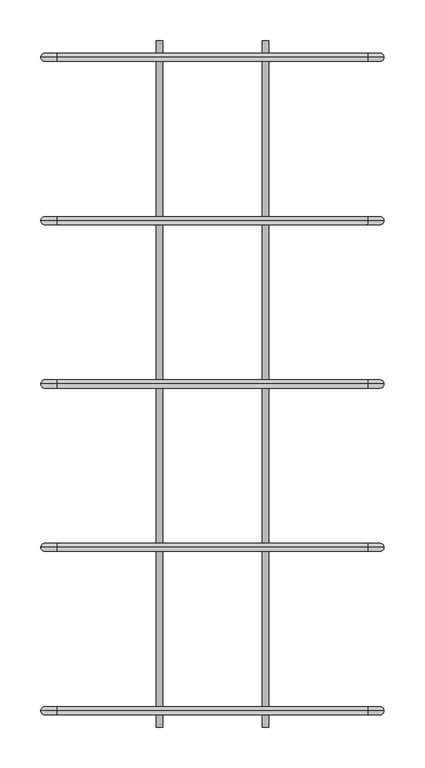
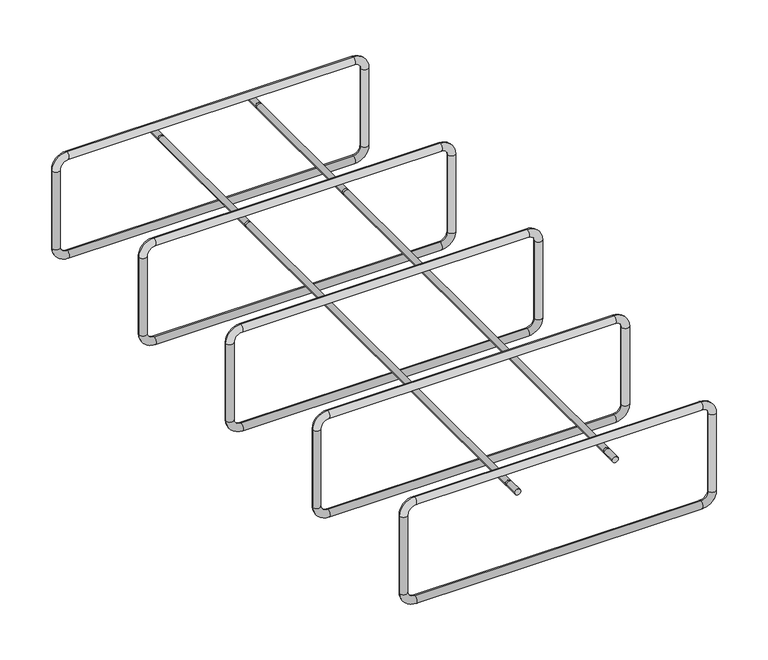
"""IFC4 building model written with IfcOpenShell, lengths in millimetres: fastener geometry, ACINOXplus_Typenreihe_Ux-Ox : OD+ S4."""

from ifc_helpers import new_model, si_unit, point, frame, frame_2d, origin, place, context, project, spatial, circle_curve, ellipse_curve, trimmed, segment, composite_curve, outline, extrude, source, transform, mapped, element, save
from ifc_brep_helpers import cylinder_surface, revolved_surface, advanced_brep


def fastener_25e3de61(model_context):
    return source(origin(), model_context, "Body", "SolidModel", [
        extrude(outline(composite_curve([segment(trimmed(circle_curve(frame_2d((-50.5, -65.0)), 4.0), [point((-50.5, -69.0))], [point((-50.5, -61.0))], False, "CARTESIAN"), True, "CONTINUOUS"), segment(trimmed(circle_curve(frame_2d((-50.5, -65.0)), 4.0), [point((-50.5, -61.0))], [point((-50.5, -69.0))], False, "CARTESIAN"), True, "CONTINUOUS")], self_intersect=False)), frame((0.0, 401.5, 0.0), z_axis=(0.0, 1.0, 0.0), x_axis=(0.0, 0.0, 1.0)), (0.0, 0.0, 1.0), 18.5),
        extrude(outline(composite_curve([segment(trimmed(circle_curve(frame_2d((-50.5, -65.0)), 4.0), [point((-50.5, -61.0))], [point((-50.5, -69.0))], False, "CARTESIAN"), True, "CONTINUOUS"), segment(trimmed(circle_curve(frame_2d((-50.5, -65.0)), 4.0), [point((-50.5, -69.0))], [point((-50.5, -61.0))], False, "CARTESIAN"), True, "CONTINUOUS")], self_intersect=False)), frame((0.0, -420.0, 0.0), z_axis=(0.0, 1.0, 0.0), x_axis=(0.0, 0.0, 1.0)), (0.0, 0.0, 1.0), 18.5),
        extrude(outline(composite_curve([segment(trimmed(circle_curve(frame_2d((-50.5, -65.0)), 4.0), [point((-50.5, -69.0))], [point((-50.5, -61.0))], False, "CARTESIAN"), True, "CONTINUOUS"), segment(trimmed(circle_curve(frame_2d((-50.5, -65.0)), 4.0), [point((-50.5, -61.0))], [point((-50.5, -69.0))], False, "CARTESIAN"), True, "CONTINUOUS")], self_intersect=False)), frame((0.0, -398.5, 0.0), z_axis=(0.0, 1.0, 0.0), x_axis=(0.0, 0.0, 1.0)), (0.0, 0.0, 1.0), 597.0),
        extrude(outline(composite_curve([segment(trimmed(circle_curve(frame_2d((-50.5, -65.0)), 4.0), [point((-50.5, -69.0))], [point((-50.5, -61.0))], False, "CARTESIAN"), True, "CONTINUOUS"), segment(trimmed(circle_curve(frame_2d((-50.5, -65.0)), 4.0), [point((-50.5, -61.0))], [point((-50.5, -69.0))], False, "CARTESIAN"), True, "CONTINUOUS")], self_intersect=False)), frame((0.0, 201.5, 0.0), z_axis=(0.0, 1.0, 0.0), x_axis=(0.0, 0.0, 1.0)), (0.0, 0.0, 1.0), 197.0),
        extrude(outline(composite_curve([segment(trimmed(circle_curve(frame_2d((-50.5, 65.0)), 4.0), [point((-50.5, 61.0))], [point((-50.5, 69.0))], False, "CARTESIAN"), True, "CONTINUOUS"), segment(trimmed(circle_curve(frame_2d((-50.5, 65.0)), 4.0), [point((-50.5, 69.0))], [point((-50.5, 61.0))], False, "CARTESIAN"), True, "CONTINUOUS")], self_intersect=False)), frame((0.0, 401.5, 0.0), z_axis=(0.0, 1.0, 0.0), x_axis=(0.0, 0.0, 1.0)), (0.0, 0.0, 1.0), 18.5),
        extrude(outline(composite_curve([segment(trimmed(circle_curve(frame_2d((-50.5, 65.0)), 4.0), [point((-50.5, 69.0))], [point((-50.5, 61.0))], False, "CARTESIAN"), True, "CONTINUOUS"), segment(trimmed(circle_curve(frame_2d((-50.5, 65.0)), 4.0), [point((-50.5, 61.0))], [point((-50.5, 69.0))], False, "CARTESIAN"), True, "CONTINUOUS")], self_intersect=False)), frame((0.0, -420.0, 0.0), z_axis=(0.0, 1.0, 0.0), x_axis=(0.0, 0.0, 1.0)), (0.0, 0.0, 1.0), 18.5),
        extrude(outline(composite_curve([segment(trimmed(circle_curve(frame_2d((-50.5, 65.0)), 4.0), [point((-50.5, 61.0))], [point((-50.5, 69.0))], False, "CARTESIAN"), True, "CONTINUOUS"), segment(trimmed(circle_curve(frame_2d((-50.5, 65.0)), 4.0), [point((-50.5, 69.0))], [point((-50.5, 61.0))], False, "CARTESIAN"), True, "CONTINUOUS")], self_intersect=False)), frame((0.0, -398.5, 0.0), z_axis=(0.0, 1.0, 0.0), x_axis=(0.0, 0.0, 1.0)), (0.0, 0.0, 1.0), 597.0),
        extrude(outline(composite_curve([segment(trimmed(circle_curve(frame_2d((-50.5, 65.0)), 4.0), [point((-50.5, 61.0))], [point((-50.5, 69.0))], False, "CARTESIAN"), True, "CONTINUOUS"), segment(trimmed(circle_curve(frame_2d((-50.5, 65.0)), 4.0), [point((-50.5, 69.0))], [point((-50.5, 61.0))], False, "CARTESIAN"), True, "CONTINUOUS")], self_intersect=False)), frame((0.0, 201.5, 0.0), z_axis=(0.0, 1.0, 0.0), x_axis=(0.0, 0.0, 1.0)), (0.0, 0.0, 1.0), 197.0),
        advanced_brep(
        [(190.0, 200.0, -35.5), (190.0, 200.0, -25.5), (-190.0, 200.0, -25.5), (-190.0, 200.0, -35.5), (-200.0, 200.0, -45.5), (-210.0, 200.0, -45.5), (-210.0, 200.0, -154.5), (-200.0, 200.0, -154.5), (-190.0, 200.0, -164.5), (-190.0, 200.0, -174.5), (190.0, 200.0, -174.5), (190.0, 200.0, -164.5), (200.0, 200.0, -154.5), (210.0, 200.0, -154.5), (210.0, 200.0, -45.5), (200.0, 200.0, -45.5)],
        [
            (0, 1, circle_curve(frame((190.0, 200.0, -30.5), z_axis=(-1.0, 0.0, 0.0), x_axis=(0.0, 0.0, -1.0)), 5.0)),
            (1, 2),
            (2, 3, circle_curve(frame((-190.0, 200.0, -30.5), z_axis=(1.0, 0.0, 0.0), x_axis=(0.0, 0.0, -1.0)), 5.0)),
            (3, 0),
            (1, 0, circle_curve(frame((190.0, 200.0, -30.5), z_axis=(-1.0, 0.0, 0.0), x_axis=(0.0, 0.0, -1.0)), 5.0)),
            (3, 2, circle_curve(frame((-190.0, 200.0, -30.5), z_axis=(1.0, 0.0, 0.0), x_axis=(0.0, 0.0, -1.0)), 5.0)),
            (4, 3, circle_curve(frame((-190.0, 200.0, -45.5), z_axis=(0.0, 1.0, 0.0), x_axis=(0.0, 0.0, 1.0)), 10.0)),
            (2, 5, circle_curve(frame((-190.0, 200.0, -45.5), z_axis=(0.0, -1.0, 0.0), x_axis=(0.0, 0.0, 1.0)), 20.0)),
            (5, 4, circle_curve(frame((-205.0, 200.0, -45.5), z_axis=(0.0, 0.0, 1.0), x_axis=(1.0, 0.0, 0.0)), 5.0)),
            (4, 5, circle_curve(frame((-205.0, 200.0, -45.5), z_axis=(0.0, 0.0, 1.0), x_axis=(1.0, 0.0, 0.0)), 5.0)),
            (5, 6),
            (6, 7, circle_curve(frame((-205.0, 200.0, -154.5), z_axis=(0.0, 0.0, 1.0), x_axis=(1.0, 0.0, 0.0)), 5.0)),
            (7, 4),
            (7, 6, circle_curve(frame((-205.0, 200.0, -154.5), z_axis=(0.0, 0.0, 1.0), x_axis=(1.0, 0.0, 0.0)), 5.0)),
            (8, 7, circle_curve(frame((-190.0, 200.0, -154.5), z_axis=(0.0, 1.0, 0.0), x_axis=(-1.0, 0.0, 0.0)), 10.0)),
            (6, 9, circle_curve(frame((-190.0, 200.0, -154.5), z_axis=(0.0, -1.0, 0.0), x_axis=(-1.0, 0.0, 0.0)), 20.0)),
            (9, 8, circle_curve(frame((-190.0, 200.0, -169.5), z_axis=(-1.0, 0.0, 0.0), x_axis=(0.0, 0.0, 1.0)), 5.0)),
            (8, 9, circle_curve(frame((-190.0, 200.0, -169.5), z_axis=(-1.0, 0.0, 0.0), x_axis=(0.0, 0.0, 1.0)), 5.0)),
            (9, 10),
            (10, 11, circle_curve(frame((190.0, 200.0, -169.5), z_axis=(-1.0, 0.0, 0.0), x_axis=(0.0, 0.0, 1.0)), 5.0)),
            (11, 8),
            (11, 10, circle_curve(frame((190.0, 200.0, -169.5), z_axis=(-1.0, 0.0, 0.0), x_axis=(0.0, 0.0, 1.0)), 5.0)),
            (12, 11, circle_curve(frame((190.0, 200.0, -154.5), z_axis=(0.0, 1.0, 0.0), x_axis=(0.0, 0.0, -1.0)), 10.0)),
            (10, 13, circle_curve(frame((190.0, 200.0, -154.5), z_axis=(0.0, -1.0, 0.0), x_axis=(0.0, 0.0, -1.0)), 20.0)),
            (13, 12, circle_curve(frame((205.0, 200.0, -154.5), z_axis=(0.0, 0.0, -1.0), x_axis=(-1.0, 0.0, 0.0)), 5.0)),
            (12, 13, circle_curve(frame((205.0, 200.0, -154.5), z_axis=(0.0, 0.0, -1.0), x_axis=(-1.0, 0.0, 0.0)), 5.0)),
            (13, 14),
            (14, 15, circle_curve(frame((205.0, 200.0, -45.5), z_axis=(0.0, 0.0, -1.0), x_axis=(-1.0, 0.0, 0.0)), 5.0)),
            (15, 12),
            (15, 14, circle_curve(frame((205.0, 200.0, -45.5), z_axis=(0.0, 0.0, -1.0), x_axis=(-1.0, 0.0, 0.0)), 5.0)),
            (0, 15, circle_curve(frame((190.0, 200.0, -45.5), z_axis=(0.0, 1.0, 0.0), x_axis=(1.0, 0.0, 0.0)), 10.0)),
            (14, 1, circle_curve(frame((190.0, 200.0, -45.5), z_axis=(0.0, -1.0, 0.0), x_axis=(1.0, 0.0, 0.0)), 20.0)),
        ],
        [
            cylinder_surface(frame((190.0, 200.0, -30.5), z_axis=(1.0, 0.0, 0.0), x_axis=(0.0, 0.0, -1.0)), 5.0),
            revolved_surface(trimmed(ellipse_curve(frame((-190.0, 200.0, -30.5), z_axis=(1.0, 0.0, 0.0), x_axis=(0.0, 0.0, -1.0)), 5.0, 5.0), [point((-190.0, 200.0, -25.5))], [point((-190.0, 200.0, -35.5))], True, "CARTESIAN"), (-190.0, 200.0, -45.5), (0.0, -1.0, 0.0)),
            revolved_surface(trimmed(ellipse_curve(frame((-190.0, 200.0, -30.5), z_axis=(1.0, 0.0, 0.0), x_axis=(0.0, 0.0, -1.0)), 5.0, 5.0), [point((-190.0, 200.0, -35.5))], [point((-190.0, 200.0, -25.5))], True, "CARTESIAN"), (-190.0, 200.0, -45.5), (0.0, -1.0, 0.0)),
            cylinder_surface(frame((-205.0, 200.0, -45.5), z_axis=(0.0, 0.0, 1.0), x_axis=(1.0, 0.0, 0.0)), 5.0),
            revolved_surface(trimmed(ellipse_curve(frame((-205.0, 200.0, -154.5), z_axis=(0.0, 0.0, 1.0), x_axis=(1.0, 0.0, 0.0)), 5.0, 5.0), [point((-210.0, 200.0, -154.5))], [point((-200.0, 200.0, -154.5))], True, "CARTESIAN"), (-190.0, 200.0, -154.5), (0.0, -1.0, 0.0)),
            revolved_surface(trimmed(ellipse_curve(frame((-205.0, 200.0, -154.5), z_axis=(0.0, 0.0, 1.0), x_axis=(1.0, 0.0, 0.0)), 5.0, 5.0), [point((-200.0, 200.0, -154.5))], [point((-210.0, 200.0, -154.5))], True, "CARTESIAN"), (-190.0, 200.0, -154.5), (0.0, -1.0, 0.0)),
            cylinder_surface(frame((-190.0, 200.0, -169.5), z_axis=(-1.0, 0.0, 0.0), x_axis=(0.0, 0.0, 1.0)), 5.0),
            revolved_surface(trimmed(ellipse_curve(frame((190.0, 200.0, -169.5), z_axis=(-1.0, 0.0, 0.0), x_axis=(0.0, 0.0, 1.0)), 5.0, 5.0), [point((190.0, 200.0, -174.5))], [point((190.0, 200.0, -164.5))], True, "CARTESIAN"), (190.0, 200.0, -154.5), (0.0, -1.0, 0.0)),
            revolved_surface(trimmed(ellipse_curve(frame((190.0, 200.0, -169.5), z_axis=(-1.0, 0.0, 0.0), x_axis=(0.0, 0.0, 1.0)), 5.0, 5.0), [point((190.0, 200.0, -164.5))], [point((190.0, 200.0, -174.5))], True, "CARTESIAN"), (190.0, 200.0, -154.5), (0.0, -1.0, 0.0)),
            cylinder_surface(frame((205.0, 200.0, -154.5), z_axis=(0.0, 0.0, -1.0), x_axis=(-1.0, 0.0, 0.0)), 5.0),
            revolved_surface(trimmed(ellipse_curve(frame((205.0, 200.0, -45.5), z_axis=(0.0, 0.0, -1.0), x_axis=(-1.0, 0.0, 0.0)), 5.0, 5.0), [point((210.0, 200.0, -45.5))], [point((200.0, 200.0, -45.5))], True, "CARTESIAN"), (190.0, 200.0, -45.5), (0.0, -1.0, 0.0)),
            revolved_surface(trimmed(ellipse_curve(frame((205.0, 200.0, -45.5), z_axis=(0.0, 0.0, -1.0), x_axis=(-1.0, 0.0, 0.0)), 5.0, 5.0), [point((200.0, 200.0, -45.5))], [point((210.0, 200.0, -45.5))], True, "CARTESIAN"), (190.0, 200.0, -45.5), (0.0, -1.0, 0.0)),
        ],
        [
            (0, [[1, 2, 3, 4]]),
            (0, [[5, -4, 6, -2]]),
            (1, [[7, -3, 8, 9]]),
            (2, [[-8, -6, -7, 10]]),
            (3, [[-9, 11, 12, 13]]),
            (3, [[-10, -13, 14, -11]]),
            (4, [[15, -12, 16, 17]]),
            (5, [[-16, -14, -15, 18]]),
            (6, [[-17, 19, 20, 21]]),
            (6, [[-18, -21, 22, -19]]),
            (7, [[23, -20, 24, 25]]),
            (8, [[-24, -22, -23, 26]]),
            (9, [[-25, 27, 28, 29]]),
            (9, [[-26, -29, 30, -27]]),
            (10, [[31, -28, 32, -1]]),
            (11, [[-32, -30, -31, -5]]),
        ],
    ),
        advanced_brep(
        [(190.0, 0.0, -35.5), (190.0, 0.0, -25.5), (-190.0, 0.0, -25.5), (-190.0, 0.0, -35.5), (-200.0, 0.0, -45.5), (-210.0, 0.0, -45.5), (-210.0, 0.0, -154.5), (-200.0, 0.0, -154.5), (-190.0, 0.0, -164.5), (-190.0, 0.0, -174.5), (190.0, 0.0, -174.5), (190.0, 0.0, -164.5), (200.0, 0.0, -154.5), (210.0, 0.0, -154.5), (210.0, 0.0, -45.5), (200.0, 0.0, -45.5)],
        [
            (0, 1, circle_curve(frame((190.0, 0.0, -30.5), z_axis=(-1.0, 0.0, 0.0), x_axis=(0.0, 0.0, -1.0)), 5.0)),
            (1, 2),
            (2, 3, circle_curve(frame((-190.0, 0.0, -30.5), z_axis=(1.0, 0.0, 0.0), x_axis=(0.0, 0.0, -1.0)), 5.0)),
            (3, 0),
            (1, 0, circle_curve(frame((190.0, 0.0, -30.5), z_axis=(-1.0, 0.0, 0.0), x_axis=(0.0, 0.0, -1.0)), 5.0)),
            (3, 2, circle_curve(frame((-190.0, 0.0, -30.5), z_axis=(1.0, 0.0, 0.0), x_axis=(0.0, 0.0, -1.0)), 5.0)),
            (4, 3, circle_curve(frame((-190.0, 0.0, -45.5), z_axis=(0.0, 1.0, 0.0), x_axis=(0.0, 0.0, 1.0)), 10.0)),
            (2, 5, circle_curve(frame((-190.0, 0.0, -45.5), z_axis=(0.0, -1.0, 0.0), x_axis=(0.0, 0.0, 1.0)), 20.0)),
            (5, 4, circle_curve(frame((-205.0, 0.0, -45.5), z_axis=(0.0, 0.0, 1.0), x_axis=(1.0, 0.0, 0.0)), 5.0)),
            (4, 5, circle_curve(frame((-205.0, 0.0, -45.5), z_axis=(0.0, 0.0, 1.0), x_axis=(1.0, 0.0, 0.0)), 5.0)),
            (5, 6),
            (6, 7, circle_curve(frame((-205.0, 0.0, -154.5), z_axis=(0.0, 0.0, 1.0), x_axis=(1.0, 0.0, 0.0)), 5.0)),
            (7, 4),
            (7, 6, circle_curve(frame((-205.0, 0.0, -154.5), z_axis=(0.0, 0.0, 1.0), x_axis=(1.0, 0.0, 0.0)), 5.0)),
            (8, 7, circle_curve(frame((-190.0, 0.0, -154.5), z_axis=(0.0, 1.0, 0.0), x_axis=(-1.0, 0.0, 0.0)), 10.0)),
            (6, 9, circle_curve(frame((-190.0, 0.0, -154.5), z_axis=(0.0, -1.0, 0.0), x_axis=(-1.0, 0.0, 0.0)), 20.0)),
            (9, 8, circle_curve(frame((-190.0, 0.0, -169.5), z_axis=(-1.0, 0.0, 0.0), x_axis=(0.0, 0.0, 1.0)), 5.0)),
            (8, 9, circle_curve(frame((-190.0, 0.0, -169.5), z_axis=(-1.0, 0.0, 0.0), x_axis=(0.0, 0.0, 1.0)), 5.0)),
            (9, 10),
            (10, 11, circle_curve(frame((190.0, 0.0, -169.5), z_axis=(-1.0, 0.0, 0.0), x_axis=(0.0, 0.0, 1.0)), 5.0)),
            (11, 8),
            (11, 10, circle_curve(frame((190.0, 0.0, -169.5), z_axis=(-1.0, 0.0, 0.0), x_axis=(0.0, 0.0, 1.0)), 5.0)),
            (12, 11, circle_curve(frame((190.0, 0.0, -154.5), z_axis=(0.0, 1.0, 0.0), x_axis=(0.0, 0.0, -1.0)), 10.0)),
            (10, 13, circle_curve(frame((190.0, 0.0, -154.5), z_axis=(0.0, -1.0, 0.0), x_axis=(0.0, 0.0, -1.0)), 20.0)),
            (13, 12, circle_curve(frame((205.0, 0.0, -154.5), z_axis=(0.0, 0.0, -1.0), x_axis=(-1.0, 0.0, 0.0)), 5.0)),
            (12, 13, circle_curve(frame((205.0, 0.0, -154.5), z_axis=(0.0, 0.0, -1.0), x_axis=(-1.0, 0.0, 0.0)), 5.0)),
            (13, 14),
            (14, 15, circle_curve(frame((205.0, 0.0, -45.5), z_axis=(0.0, 0.0, -1.0), x_axis=(-1.0, 0.0, 0.0)), 5.0)),
            (15, 12),
            (15, 14, circle_curve(frame((205.0, 0.0, -45.5), z_axis=(0.0, 0.0, -1.0), x_axis=(-1.0, 0.0, 0.0)), 5.0)),
            (0, 15, circle_curve(frame((190.0, 0.0, -45.5), z_axis=(0.0, 1.0, 0.0), x_axis=(1.0, 0.0, 0.0)), 10.0)),
            (14, 1, circle_curve(frame((190.0, 0.0, -45.5), z_axis=(0.0, -1.0, 0.0), x_axis=(1.0, 0.0, 0.0)), 20.0)),
        ],
        [
            cylinder_surface(frame((190.0, 0.0, -30.5), z_axis=(1.0, 0.0, 0.0), x_axis=(0.0, 0.0, -1.0)), 5.0),
            revolved_surface(trimmed(ellipse_curve(frame((-190.0, 0.0, -30.5), z_axis=(1.0, 0.0, 0.0), x_axis=(0.0, 0.0, -1.0)), 5.0, 5.0), [point((-190.0, 0.0, -25.5))], [point((-190.0, 0.0, -35.5))], True, "CARTESIAN"), (-190.0, 0.0, -45.5), (0.0, -1.0, 0.0)),
            revolved_surface(trimmed(ellipse_curve(frame((-190.0, 0.0, -30.5), z_axis=(1.0, 0.0, 0.0), x_axis=(0.0, 0.0, -1.0)), 5.0, 5.0), [point((-190.0, 0.0, -35.5))], [point((-190.0, 0.0, -25.5))], True, "CARTESIAN"), (-190.0, 0.0, -45.5), (0.0, -1.0, 0.0)),
            cylinder_surface(frame((-205.0, 0.0, -45.5), z_axis=(0.0, 0.0, 1.0), x_axis=(1.0, 0.0, 0.0)), 5.0),
            revolved_surface(trimmed(ellipse_curve(frame((-205.0, 0.0, -154.5), z_axis=(0.0, 0.0, 1.0), x_axis=(1.0, 0.0, 0.0)), 5.0, 5.0), [point((-210.0, 0.0, -154.5))], [point((-200.0, 0.0, -154.5))], True, "CARTESIAN"), (-190.0, 0.0, -154.5), (0.0, -1.0, 0.0)),
            revolved_surface(trimmed(ellipse_curve(frame((-205.0, 0.0, -154.5), z_axis=(0.0, 0.0, 1.0), x_axis=(1.0, 0.0, 0.0)), 5.0, 5.0), [point((-200.0, 0.0, -154.5))], [point((-210.0, 0.0, -154.5))], True, "CARTESIAN"), (-190.0, 0.0, -154.5), (0.0, -1.0, 0.0)),
            cylinder_surface(frame((-190.0, 0.0, -169.5), z_axis=(-1.0, 0.0, 0.0), x_axis=(0.0, 0.0, 1.0)), 5.0),
            revolved_surface(trimmed(ellipse_curve(frame((190.0, 0.0, -169.5), z_axis=(-1.0, 0.0, 0.0), x_axis=(0.0, 0.0, 1.0)), 5.0, 5.0), [point((190.0, 0.0, -174.5))], [point((190.0, 0.0, -164.5))], True, "CARTESIAN"), (190.0, 0.0, -154.5), (0.0, -1.0, 0.0)),
            revolved_surface(trimmed(ellipse_curve(frame((190.0, 0.0, -169.5), z_axis=(-1.0, 0.0, 0.0), x_axis=(0.0, 0.0, 1.0)), 5.0, 5.0), [point((190.0, 0.0, -164.5))], [point((190.0, 0.0, -174.5))], True, "CARTESIAN"), (190.0, 0.0, -154.5), (0.0, -1.0, 0.0)),
            cylinder_surface(frame((205.0, 0.0, -154.5), z_axis=(0.0, 0.0, -1.0), x_axis=(-1.0, 0.0, 0.0)), 5.0),
            revolved_surface(trimmed(ellipse_curve(frame((205.0, 0.0, -45.5), z_axis=(0.0, 0.0, -1.0), x_axis=(-1.0, 0.0, 0.0)), 5.0, 5.0), [point((210.0, 0.0, -45.5))], [point((200.0, 0.0, -45.5))], True, "CARTESIAN"), (190.0, 0.0, -45.5), (0.0, -1.0, 0.0)),
            revolved_surface(trimmed(ellipse_curve(frame((205.0, 0.0, -45.5), z_axis=(0.0, 0.0, -1.0), x_axis=(-1.0, 0.0, 0.0)), 5.0, 5.0), [point((200.0, 0.0, -45.5))], [point((210.0, 0.0, -45.5))], True, "CARTESIAN"), (190.0, 0.0, -45.5), (0.0, -1.0, 0.0)),
        ],
        [
            (0, [[1, 2, 3, 4]]),
            (0, [[5, -4, 6, -2]]),
            (1, [[7, -3, 8, 9]]),
            (2, [[-8, -6, -7, 10]]),
            (3, [[-9, 11, 12, 13]]),
            (3, [[-10, -13, 14, -11]]),
            (4, [[15, -12, 16, 17]]),
            (5, [[-16, -14, -15, 18]]),
            (6, [[-17, 19, 20, 21]]),
            (6, [[-18, -21, 22, -19]]),
            (7, [[23, -20, 24, 25]]),
            (8, [[-24, -22, -23, 26]]),
            (9, [[-25, 27, 28, 29]]),
            (9, [[-26, -29, 30, -27]]),
            (10, [[31, -28, 32, -1]]),
            (11, [[-32, -30, -31, -5]]),
        ],
    ),
        advanced_brep(
        [(190.0, -200.0, -35.5), (190.0, -200.0, -25.5), (-190.0, -200.0, -25.5), (-190.0, -200.0, -35.5), (-200.0, -200.0, -45.5), (-210.0, -200.0, -45.5), (-210.0, -200.0, -154.5), (-200.0, -200.0, -154.5), (-190.0, -200.0, -164.5), (-190.0, -200.0, -174.5), (190.0, -200.0, -174.5), (190.0, -200.0, -164.5), (200.0, -200.0, -154.5), (210.0, -200.0, -154.5), (210.0, -200.0, -45.5), (200.0, -200.0, -45.5)],
        [
            (0, 1, circle_curve(frame((190.0, -200.0, -30.5), z_axis=(-1.0, 0.0, 0.0), x_axis=(0.0, 0.0, -1.0)), 5.0)),
            (1, 2),
            (2, 3, circle_curve(frame((-190.0, -200.0, -30.5), z_axis=(1.0, 0.0, 0.0), x_axis=(0.0, 0.0, -1.0)), 5.0)),
            (3, 0),
            (1, 0, circle_curve(frame((190.0, -200.0, -30.5), z_axis=(-1.0, 0.0, 0.0), x_axis=(0.0, 0.0, -1.0)), 5.0)),
            (3, 2, circle_curve(frame((-190.0, -200.0, -30.5), z_axis=(1.0, 0.0, 0.0), x_axis=(0.0, 0.0, -1.0)), 5.0)),
            (4, 3, circle_curve(frame((-190.0, -200.0, -45.5), z_axis=(0.0, 1.0, 0.0), x_axis=(0.0, 0.0, 1.0)), 10.0)),
            (2, 5, circle_curve(frame((-190.0, -200.0, -45.5), z_axis=(0.0, -1.0, 0.0), x_axis=(0.0, 0.0, 1.0)), 20.0)),
            (5, 4, circle_curve(frame((-205.0, -200.0, -45.5), z_axis=(0.0, 0.0, 1.0), x_axis=(1.0, 0.0, 0.0)), 5.0)),
            (4, 5, circle_curve(frame((-205.0, -200.0, -45.5), z_axis=(0.0, 0.0, 1.0), x_axis=(1.0, 0.0, 0.0)), 5.0)),
            (5, 6),
            (6, 7, circle_curve(frame((-205.0, -200.0, -154.5), z_axis=(0.0, 0.0, 1.0), x_axis=(1.0, 0.0, 0.0)), 5.0)),
            (7, 4),
            (7, 6, circle_curve(frame((-205.0, -200.0, -154.5), z_axis=(0.0, 0.0, 1.0), x_axis=(1.0, 0.0, 0.0)), 5.0)),
            (8, 7, circle_curve(frame((-190.0, -200.0, -154.5), z_axis=(0.0, 1.0, 0.0), x_axis=(-1.0, 0.0, 0.0)), 10.0)),
            (6, 9, circle_curve(frame((-190.0, -200.0, -154.5), z_axis=(0.0, -1.0, 0.0), x_axis=(-1.0, 0.0, 0.0)), 20.0)),
            (9, 8, circle_curve(frame((-190.0, -200.0, -169.5), z_axis=(-1.0, 0.0, 0.0), x_axis=(0.0, 0.0, 1.0)), 5.0)),
            (8, 9, circle_curve(frame((-190.0, -200.0, -169.5), z_axis=(-1.0, 0.0, 0.0), x_axis=(0.0, 0.0, 1.0)), 5.0)),
            (9, 10),
            (10, 11, circle_curve(frame((190.0, -200.0, -169.5), z_axis=(-1.0, 0.0, 0.0), x_axis=(0.0, 0.0, 1.0)), 5.0)),
            (11, 8),
            (11, 10, circle_curve(frame((190.0, -200.0, -169.5), z_axis=(-1.0, 0.0, 0.0), x_axis=(0.0, 0.0, 1.0)), 5.0)),
            (12, 11, circle_curve(frame((190.0, -200.0, -154.5), z_axis=(0.0, 1.0, 0.0), x_axis=(0.0, 0.0, -1.0)), 10.0)),
            (10, 13, circle_curve(frame((190.0, -200.0, -154.5), z_axis=(0.0, -1.0, 0.0), x_axis=(0.0, 0.0, -1.0)), 20.0)),
            (13, 12, circle_curve(frame((205.0, -200.0, -154.5), z_axis=(0.0, 0.0, -1.0), x_axis=(-1.0, 0.0, 0.0)), 5.0)),
            (12, 13, circle_curve(frame((205.0, -200.0, -154.5), z_axis=(0.0, 0.0, -1.0), x_axis=(-1.0, 0.0, 0.0)), 5.0)),
            (13, 14),
            (14, 15, circle_curve(frame((205.0, -200.0, -45.5), z_axis=(0.0, 0.0, -1.0), x_axis=(-1.0, 0.0, 0.0)), 5.0)),
            (15, 12),
            (15, 14, circle_curve(frame((205.0, -200.0, -45.5), z_axis=(0.0, 0.0, -1.0), x_axis=(-1.0, 0.0, 0.0)), 5.0)),
            (0, 15, circle_curve(frame((190.0, -200.0, -45.5), z_axis=(0.0, 1.0, 0.0), x_axis=(1.0, 0.0, 0.0)), 10.0)),
            (14, 1, circle_curve(frame((190.0, -200.0, -45.5), z_axis=(0.0, -1.0, 0.0), x_axis=(1.0, 0.0, 0.0)), 20.0)),
        ],
        [
            cylinder_surface(frame((190.0, -200.0, -30.5), z_axis=(1.0, 0.0, 0.0), x_axis=(0.0, 0.0, -1.0)), 5.0),
            revolved_surface(trimmed(ellipse_curve(frame((-190.0, -200.0, -30.5), z_axis=(1.0, 0.0, 0.0), x_axis=(0.0, 0.0, -1.0)), 5.0, 5.0), [point((-190.0, -200.0, -25.5))], [point((-190.0, -200.0, -35.5))], True, "CARTESIAN"), (-190.0, -200.0, -45.5), (0.0, -1.0, 0.0)),
            revolved_surface(trimmed(ellipse_curve(frame((-190.0, -200.0, -30.5), z_axis=(1.0, 0.0, 0.0), x_axis=(0.0, 0.0, -1.0)), 5.0, 5.0), [point((-190.0, -200.0, -35.5))], [point((-190.0, -200.0, -25.5))], True, "CARTESIAN"), (-190.0, -200.0, -45.5), (0.0, -1.0, 0.0)),
            cylinder_surface(frame((-205.0, -200.0, -45.5), z_axis=(0.0, 0.0, 1.0), x_axis=(1.0, 0.0, 0.0)), 5.0),
            revolved_surface(trimmed(ellipse_curve(frame((-205.0, -200.0, -154.5), z_axis=(0.0, 0.0, 1.0), x_axis=(1.0, 0.0, 0.0)), 5.0, 5.0), [point((-210.0, -200.0, -154.5))], [point((-200.0, -200.0, -154.5))], True, "CARTESIAN"), (-190.0, -200.0, -154.5), (0.0, -1.0, 0.0)),
            revolved_surface(trimmed(ellipse_curve(frame((-205.0, -200.0, -154.5), z_axis=(0.0, 0.0, 1.0), x_axis=(1.0, 0.0, 0.0)), 5.0, 5.0), [point((-200.0, -200.0, -154.5))], [point((-210.0, -200.0, -154.5))], True, "CARTESIAN"), (-190.0, -200.0, -154.5), (0.0, -1.0, 0.0)),
            cylinder_surface(frame((-190.0, -200.0, -169.5), z_axis=(-1.0, 0.0, 0.0), x_axis=(0.0, 0.0, 1.0)), 5.0),
            revolved_surface(trimmed(ellipse_curve(frame((190.0, -200.0, -169.5), z_axis=(-1.0, 0.0, 0.0), x_axis=(0.0, 0.0, 1.0)), 5.0, 5.0), [point((190.0, -200.0, -174.5))], [point((190.0, -200.0, -164.5))], True, "CARTESIAN"), (190.0, -200.0, -154.5), (0.0, -1.0, 0.0)),
            revolved_surface(trimmed(ellipse_curve(frame((190.0, -200.0, -169.5), z_axis=(-1.0, 0.0, 0.0), x_axis=(0.0, 0.0, 1.0)), 5.0, 5.0), [point((190.0, -200.0, -164.5))], [point((190.0, -200.0, -174.5))], True, "CARTESIAN"), (190.0, -200.0, -154.5), (0.0, -1.0, 0.0)),
            cylinder_surface(frame((205.0, -200.0, -154.5), z_axis=(0.0, 0.0, -1.0), x_axis=(-1.0, 0.0, 0.0)), 5.0),
            revolved_surface(trimmed(ellipse_curve(frame((205.0, -200.0, -45.5), z_axis=(0.0, 0.0, -1.0), x_axis=(-1.0, 0.0, 0.0)), 5.0, 5.0), [point((210.0, -200.0, -45.5))], [point((200.0, -200.0, -45.5))], True, "CARTESIAN"), (190.0, -200.0, -45.5), (0.0, -1.0, 0.0)),
            revolved_surface(trimmed(ellipse_curve(frame((205.0, -200.0, -45.5), z_axis=(0.0, 0.0, -1.0), x_axis=(-1.0, 0.0, 0.0)), 5.0, 5.0), [point((200.0, -200.0, -45.5))], [point((210.0, -200.0, -45.5))], True, "CARTESIAN"), (190.0, -200.0, -45.5), (0.0, -1.0, 0.0)),
        ],
        [
            (0, [[1, 2, 3, 4]]),
            (0, [[5, -4, 6, -2]]),
            (1, [[7, -3, 8, 9]]),
            (2, [[-8, -6, -7, 10]]),
            (3, [[-9, 11, 12, 13]]),
            (3, [[-10, -13, 14, -11]]),
            (4, [[15, -12, 16, 17]]),
            (5, [[-16, -14, -15, 18]]),
            (6, [[-17, 19, 20, 21]]),
            (6, [[-18, -21, 22, -19]]),
            (7, [[23, -20, 24, 25]]),
            (8, [[-24, -22, -23, 26]]),
            (9, [[-25, 27, 28, 29]]),
            (9, [[-26, -29, 30, -27]]),
            (10, [[31, -28, 32, -1]]),
            (11, [[-32, -30, -31, -5]]),
        ],
    ),
        advanced_brep(
        [(190.0, 400.0, -35.5), (190.0, 400.0, -25.5), (-190.0, 400.0, -25.5), (-190.0, 400.0, -35.5), (-200.0, 400.0, -45.5), (-210.0, 400.0, -45.5), (-210.0, 400.0, -154.5), (-200.0, 400.0, -154.5), (-190.0, 400.0, -164.5), (-190.0, 400.0, -174.5), (190.0, 400.0, -174.5), (190.0, 400.0, -164.5), (200.0, 400.0, -154.5), (210.0, 400.0, -154.5), (210.0, 400.0, -45.5), (200.0, 400.0, -45.5)],
        [
            (0, 1, circle_curve(frame((190.0, 400.0, -30.5), z_axis=(-1.0, 0.0, 0.0), x_axis=(0.0, 0.0, -1.0)), 5.0)),
            (1, 2),
            (2, 3, circle_curve(frame((-190.0, 400.0, -30.5), z_axis=(1.0, 0.0, 0.0), x_axis=(0.0, 0.0, -1.0)), 5.0)),
            (3, 0),
            (1, 0, circle_curve(frame((190.0, 400.0, -30.5), z_axis=(-1.0, 0.0, 0.0), x_axis=(0.0, 0.0, -1.0)), 5.0)),
            (3, 2, circle_curve(frame((-190.0, 400.0, -30.5), z_axis=(1.0, 0.0, 0.0), x_axis=(0.0, 0.0, -1.0)), 5.0)),
            (4, 3, circle_curve(frame((-190.0, 400.0, -45.5), z_axis=(0.0, 1.0, 0.0), x_axis=(0.0, 0.0, 1.0)), 10.0)),
            (2, 5, circle_curve(frame((-190.0, 400.0, -45.5), z_axis=(0.0, -1.0, 0.0), x_axis=(0.0, 0.0, 1.0)), 20.0)),
            (5, 4, circle_curve(frame((-205.0, 400.0, -45.5), z_axis=(0.0, 0.0, 1.0), x_axis=(1.0, 0.0, 0.0)), 5.0)),
            (4, 5, circle_curve(frame((-205.0, 400.0, -45.5), z_axis=(0.0, 0.0, 1.0), x_axis=(1.0, 0.0, 0.0)), 5.0)),
            (5, 6),
            (6, 7, circle_curve(frame((-205.0, 400.0, -154.5), z_axis=(0.0, 0.0, 1.0), x_axis=(1.0, 0.0, 0.0)), 5.0)),
            (7, 4),
            (7, 6, circle_curve(frame((-205.0, 400.0, -154.5), z_axis=(0.0, 0.0, 1.0), x_axis=(1.0, 0.0, 0.0)), 5.0)),
            (8, 7, circle_curve(frame((-190.0, 400.0, -154.5), z_axis=(0.0, 1.0, 0.0), x_axis=(-1.0, 0.0, 0.0)), 10.0)),
            (6, 9, circle_curve(frame((-190.0, 400.0, -154.5), z_axis=(0.0, -1.0, 0.0), x_axis=(-1.0, 0.0, 0.0)), 20.0)),
            (9, 8, circle_curve(frame((-190.0, 400.0, -169.5), z_axis=(-1.0, 0.0, 0.0), x_axis=(0.0, 0.0, 1.0)), 5.0)),
            (8, 9, circle_curve(frame((-190.0, 400.0, -169.5), z_axis=(-1.0, 0.0, 0.0), x_axis=(0.0, 0.0, 1.0)), 5.0)),
            (9, 10),
            (10, 11, circle_curve(frame((190.0, 400.0, -169.5), z_axis=(-1.0, 0.0, 0.0), x_axis=(0.0, 0.0, 1.0)), 5.0)),
            (11, 8),
            (11, 10, circle_curve(frame((190.0, 400.0, -169.5), z_axis=(-1.0, 0.0, 0.0), x_axis=(0.0, 0.0, 1.0)), 5.0)),
            (12, 11, circle_curve(frame((190.0, 400.0, -154.5), z_axis=(0.0, 1.0, 0.0), x_axis=(0.0, 0.0, -1.0)), 10.0)),
            (10, 13, circle_curve(frame((190.0, 400.0, -154.5), z_axis=(0.0, -1.0, 0.0), x_axis=(0.0, 0.0, -1.0)), 20.0)),
            (13, 12, circle_curve(frame((205.0, 400.0, -154.5), z_axis=(0.0, 0.0, -1.0), x_axis=(-1.0, 0.0, 0.0)), 5.0)),
            (12, 13, circle_curve(frame((205.0, 400.0, -154.5), z_axis=(0.0, 0.0, -1.0), x_axis=(-1.0, 0.0, 0.0)), 5.0)),
            (13, 14),
            (14, 15, circle_curve(frame((205.0, 400.0, -45.5), z_axis=(0.0, 0.0, -1.0), x_axis=(-1.0, 0.0, 0.0)), 5.0)),
            (15, 12),
            (15, 14, circle_curve(frame((205.0, 400.0, -45.5), z_axis=(0.0, 0.0, -1.0), x_axis=(-1.0, 0.0, 0.0)), 5.0)),
            (0, 15, circle_curve(frame((190.0, 400.0, -45.5), z_axis=(0.0, 1.0, 0.0), x_axis=(1.0, 0.0, 0.0)), 10.0)),
            (14, 1, circle_curve(frame((190.0, 400.0, -45.5), z_axis=(0.0, -1.0, 0.0), x_axis=(1.0, 0.0, 0.0)), 20.0)),
        ],
        [
            cylinder_surface(frame((190.0, 400.0, -30.5), z_axis=(1.0, 0.0, 0.0), x_axis=(0.0, 0.0, -1.0)), 5.0),
            revolved_surface(trimmed(ellipse_curve(frame((-190.0, 400.0, -30.5), z_axis=(1.0, 0.0, 0.0), x_axis=(0.0, 0.0, -1.0)), 5.0, 5.0), [point((-190.0, 400.0, -25.5))], [point((-190.0, 400.0, -35.5))], True, "CARTESIAN"), (-190.0, 400.0, -45.5), (0.0, -1.0, 0.0)),
            revolved_surface(trimmed(ellipse_curve(frame((-190.0, 400.0, -30.5), z_axis=(1.0, 0.0, 0.0), x_axis=(0.0, 0.0, -1.0)), 5.0, 5.0), [point((-190.0, 400.0, -35.5))], [point((-190.0, 400.0, -25.5))], True, "CARTESIAN"), (-190.0, 400.0, -45.5), (0.0, -1.0, 0.0)),
            cylinder_surface(frame((-205.0, 400.0, -45.5), z_axis=(0.0, 0.0, 1.0), x_axis=(1.0, 0.0, 0.0)), 5.0),
            revolved_surface(trimmed(ellipse_curve(frame((-205.0, 400.0, -154.5), z_axis=(0.0, 0.0, 1.0), x_axis=(1.0, 0.0, 0.0)), 5.0, 5.0), [point((-210.0, 400.0, -154.5))], [point((-200.0, 400.0, -154.5))], True, "CARTESIAN"), (-190.0, 400.0, -154.5), (0.0, -1.0, 0.0)),
            revolved_surface(trimmed(ellipse_curve(frame((-205.0, 400.0, -154.5), z_axis=(0.0, 0.0, 1.0), x_axis=(1.0, 0.0, 0.0)), 5.0, 5.0), [point((-200.0, 400.0, -154.5))], [point((-210.0, 400.0, -154.5))], True, "CARTESIAN"), (-190.0, 400.0, -154.5), (0.0, -1.0, 0.0)),
            cylinder_surface(frame((-190.0, 400.0, -169.5), z_axis=(-1.0, 0.0, 0.0), x_axis=(0.0, 0.0, 1.0)), 5.0),
            revolved_surface(trimmed(ellipse_curve(frame((190.0, 400.0, -169.5), z_axis=(-1.0, 0.0, 0.0), x_axis=(0.0, 0.0, 1.0)), 5.0, 5.0), [point((190.0, 400.0, -174.5))], [point((190.0, 400.0, -164.5))], True, "CARTESIAN"), (190.0, 400.0, -154.5), (0.0, -1.0, 0.0)),
            revolved_surface(trimmed(ellipse_curve(frame((190.0, 400.0, -169.5), z_axis=(-1.0, 0.0, 0.0), x_axis=(0.0, 0.0, 1.0)), 5.0, 5.0), [point((190.0, 400.0, -164.5))], [point((190.0, 400.0, -174.5))], True, "CARTESIAN"), (190.0, 400.0, -154.5), (0.0, -1.0, 0.0)),
            cylinder_surface(frame((205.0, 400.0, -154.5), z_axis=(0.0, 0.0, -1.0), x_axis=(-1.0, 0.0, 0.0)), 5.0),
            revolved_surface(trimmed(ellipse_curve(frame((205.0, 400.0, -45.5), z_axis=(0.0, 0.0, -1.0), x_axis=(-1.0, 0.0, 0.0)), 5.0, 5.0), [point((210.0, 400.0, -45.5))], [point((200.0, 400.0, -45.5))], True, "CARTESIAN"), (190.0, 400.0, -45.5), (0.0, -1.0, 0.0)),
            revolved_surface(trimmed(ellipse_curve(frame((205.0, 400.0, -45.5), z_axis=(0.0, 0.0, -1.0), x_axis=(-1.0, 0.0, 0.0)), 5.0, 5.0), [point((200.0, 400.0, -45.5))], [point((210.0, 400.0, -45.5))], True, "CARTESIAN"), (190.0, 400.0, -45.5), (0.0, -1.0, 0.0)),
        ],
        [
            (0, [[1, 2, 3, 4]]),
            (0, [[5, -4, 6, -2]]),
            (1, [[7, -3, 8, 9]]),
            (2, [[-8, -6, -7, 10]]),
            (3, [[-9, 11, 12, 13]]),
            (3, [[-10, -13, 14, -11]]),
            (4, [[15, -12, 16, 17]]),
            (5, [[-16, -14, -15, 18]]),
            (6, [[-17, 19, 20, 21]]),
            (6, [[-18, -21, 22, -19]]),
            (7, [[23, -20, 24, 25]]),
            (8, [[-24, -22, -23, 26]]),
            (9, [[-25, 27, 28, 29]]),
            (9, [[-26, -29, 30, -27]]),
            (10, [[31, -28, 32, -1]]),
            (11, [[-32, -30, -31, -5]]),
        ],
    ),
        advanced_brep(
        [(190.0, -400.0, -35.5), (190.0, -400.0, -25.5), (-190.0, -400.0, -25.5), (-190.0, -400.0, -35.5), (-200.0, -400.0, -45.5), (-210.0, -400.0, -45.5), (-210.0, -400.0, -154.5), (-200.0, -400.0, -154.5), (-190.0, -400.0, -164.5), (-190.0, -400.0, -174.5), (190.0, -400.0, -174.5), (190.0, -400.0, -164.5), (200.0, -400.0, -154.5), (210.0, -400.0, -154.5), (210.0, -400.0, -45.5), (200.0, -400.0, -45.5)],
        [
            (0, 1, circle_curve(frame((190.0, -400.0, -30.5), z_axis=(-1.0, 0.0, 0.0), x_axis=(0.0, 0.0, -1.0)), 5.0)),
            (1, 2),
            (2, 3, circle_curve(frame((-190.0, -400.0, -30.5), z_axis=(1.0, 0.0, 0.0), x_axis=(0.0, 0.0, -1.0)), 5.0)),
            (3, 0),
            (1, 0, circle_curve(frame((190.0, -400.0, -30.5), z_axis=(-1.0, 0.0, 0.0), x_axis=(0.0, 0.0, -1.0)), 5.0)),
            (3, 2, circle_curve(frame((-190.0, -400.0, -30.5), z_axis=(1.0, 0.0, 0.0), x_axis=(0.0, 0.0, -1.0)), 5.0)),
            (4, 3, circle_curve(frame((-190.0, -400.0, -45.5), z_axis=(0.0, 1.0, 0.0), x_axis=(0.0, 0.0, 1.0)), 10.0)),
            (2, 5, circle_curve(frame((-190.0, -400.0, -45.5), z_axis=(0.0, -1.0, 0.0), x_axis=(0.0, 0.0, 1.0)), 20.0)),
            (5, 4, circle_curve(frame((-205.0, -400.0, -45.5), z_axis=(0.0, 0.0, 1.0), x_axis=(1.0, 0.0, 0.0)), 5.0)),
            (4, 5, circle_curve(frame((-205.0, -400.0, -45.5), z_axis=(0.0, 0.0, 1.0), x_axis=(1.0, 0.0, 0.0)), 5.0)),
            (5, 6),
            (6, 7, circle_curve(frame((-205.0, -400.0, -154.5), z_axis=(0.0, 0.0, 1.0), x_axis=(1.0, 0.0, 0.0)), 5.0)),
            (7, 4),
            (7, 6, circle_curve(frame((-205.0, -400.0, -154.5), z_axis=(0.0, 0.0, 1.0), x_axis=(1.0, 0.0, 0.0)), 5.0)),
            (8, 7, circle_curve(frame((-190.0, -400.0, -154.5), z_axis=(0.0, 1.0, 0.0), x_axis=(-1.0, 0.0, 0.0)), 10.0)),
            (6, 9, circle_curve(frame((-190.0, -400.0, -154.5), z_axis=(0.0, -1.0, 0.0), x_axis=(-1.0, 0.0, 0.0)), 20.0)),
            (9, 8, circle_curve(frame((-190.0, -400.0, -169.5), z_axis=(-1.0, 0.0, 0.0), x_axis=(0.0, 0.0, 1.0)), 5.0)),
            (8, 9, circle_curve(frame((-190.0, -400.0, -169.5), z_axis=(-1.0, 0.0, 0.0), x_axis=(0.0, 0.0, 1.0)), 5.0)),
            (9, 10),
            (10, 11, circle_curve(frame((190.0, -400.0, -169.5), z_axis=(-1.0, 0.0, 0.0), x_axis=(0.0, 0.0, 1.0)), 5.0)),
            (11, 8),
            (11, 10, circle_curve(frame((190.0, -400.0, -169.5), z_axis=(-1.0, 0.0, 0.0), x_axis=(0.0, 0.0, 1.0)), 5.0)),
            (12, 11, circle_curve(frame((190.0, -400.0, -154.5), z_axis=(0.0, 1.0, 0.0), x_axis=(0.0, 0.0, -1.0)), 10.0)),
            (10, 13, circle_curve(frame((190.0, -400.0, -154.5), z_axis=(0.0, -1.0, 0.0), x_axis=(0.0, 0.0, -1.0)), 20.0)),
            (13, 12, circle_curve(frame((205.0, -400.0, -154.5), z_axis=(0.0, 0.0, -1.0), x_axis=(-1.0, 0.0, 0.0)), 5.0)),
            (12, 13, circle_curve(frame((205.0, -400.0, -154.5), z_axis=(0.0, 0.0, -1.0), x_axis=(-1.0, 0.0, 0.0)), 5.0)),
            (13, 14),
            (14, 15, circle_curve(frame((205.0, -400.0, -45.5), z_axis=(0.0, 0.0, -1.0), x_axis=(-1.0, 0.0, 0.0)), 5.0)),
            (15, 12),
            (15, 14, circle_curve(frame((205.0, -400.0, -45.5), z_axis=(0.0, 0.0, -1.0), x_axis=(-1.0, 0.0, 0.0)), 5.0)),
            (0, 15, circle_curve(frame((190.0, -400.0, -45.5), z_axis=(0.0, 1.0, 0.0), x_axis=(1.0, 0.0, 0.0)), 10.0)),
            (14, 1, circle_curve(frame((190.0, -400.0, -45.5), z_axis=(0.0, -1.0, 0.0), x_axis=(1.0, 0.0, 0.0)), 20.0)),
        ],
        [
            cylinder_surface(frame((190.0, -400.0, -30.5), z_axis=(1.0, 0.0, 0.0), x_axis=(0.0, 0.0, -1.0)), 5.0),
            revolved_surface(trimmed(ellipse_curve(frame((-190.0, -400.0, -30.5), z_axis=(1.0, 0.0, 0.0), x_axis=(0.0, 0.0, -1.0)), 5.0, 5.0), [point((-190.0, -400.0, -25.5))], [point((-190.0, -400.0, -35.5))], True, "CARTESIAN"), (-190.0, -400.0, -45.5), (0.0, -1.0, 0.0)),
            revolved_surface(trimmed(ellipse_curve(frame((-190.0, -400.0, -30.5), z_axis=(1.0, 0.0, 0.0), x_axis=(0.0, 0.0, -1.0)), 5.0, 5.0), [point((-190.0, -400.0, -35.5))], [point((-190.0, -400.0, -25.5))], True, "CARTESIAN"), (-190.0, -400.0, -45.5), (0.0, -1.0, 0.0)),
            cylinder_surface(frame((-205.0, -400.0, -45.5), z_axis=(0.0, 0.0, 1.0), x_axis=(1.0, 0.0, 0.0)), 5.0),
            revolved_surface(trimmed(ellipse_curve(frame((-205.0, -400.0, -154.5), z_axis=(0.0, 0.0, 1.0), x_axis=(1.0, 0.0, 0.0)), 5.0, 5.0), [point((-210.0, -400.0, -154.5))], [point((-200.0, -400.0, -154.5))], True, "CARTESIAN"), (-190.0, -400.0, -154.5), (0.0, -1.0, 0.0)),
            revolved_surface(trimmed(ellipse_curve(frame((-205.0, -400.0, -154.5), z_axis=(0.0, 0.0, 1.0), x_axis=(1.0, 0.0, 0.0)), 5.0, 5.0), [point((-200.0, -400.0, -154.5))], [point((-210.0, -400.0, -154.5))], True, "CARTESIAN"), (-190.0, -400.0, -154.5), (0.0, -1.0, 0.0)),
            cylinder_surface(frame((-190.0, -400.0, -169.5), z_axis=(-1.0, 0.0, 0.0), x_axis=(0.0, 0.0, 1.0)), 5.0),
            revolved_surface(trimmed(ellipse_curve(frame((190.0, -400.0, -169.5), z_axis=(-1.0, 0.0, 0.0), x_axis=(0.0, 0.0, 1.0)), 5.0, 5.0), [point((190.0, -400.0, -174.5))], [point((190.0, -400.0, -164.5))], True, "CARTESIAN"), (190.0, -400.0, -154.5), (0.0, -1.0, 0.0)),
            revolved_surface(trimmed(ellipse_curve(frame((190.0, -400.0, -169.5), z_axis=(-1.0, 0.0, 0.0), x_axis=(0.0, 0.0, 1.0)), 5.0, 5.0), [point((190.0, -400.0, -164.5))], [point((190.0, -400.0, -174.5))], True, "CARTESIAN"), (190.0, -400.0, -154.5), (0.0, -1.0, 0.0)),
            cylinder_surface(frame((205.0, -400.0, -154.5), z_axis=(0.0, 0.0, -1.0), x_axis=(-1.0, 0.0, 0.0)), 5.0),
            revolved_surface(trimmed(ellipse_curve(frame((205.0, -400.0, -45.5), z_axis=(0.0, 0.0, -1.0), x_axis=(-1.0, 0.0, 0.0)), 5.0, 5.0), [point((210.0, -400.0, -45.5))], [point((200.0, -400.0, -45.5))], True, "CARTESIAN"), (190.0, -400.0, -45.5), (0.0, -1.0, 0.0)),
            revolved_surface(trimmed(ellipse_curve(frame((205.0, -400.0, -45.5), z_axis=(0.0, 0.0, -1.0), x_axis=(-1.0, 0.0, 0.0)), 5.0, 5.0), [point((200.0, -400.0, -45.5))], [point((210.0, -400.0, -45.5))], True, "CARTESIAN"), (190.0, -400.0, -45.5), (0.0, -1.0, 0.0)),
        ],
        [
            (0, [[1, 2, 3, 4]]),
            (0, [[5, -4, 6, -2]]),
            (1, [[7, -3, 8, 9]]),
            (2, [[-8, -6, -7, 10]]),
            (3, [[-9, 11, 12, 13]]),
            (3, [[-10, -13, 14, -11]]),
            (4, [[15, -12, 16, 17]]),
            (5, [[-16, -14, -15, 18]]),
            (6, [[-17, 19, 20, 21]]),
            (6, [[-18, -21, 22, -19]]),
            (7, [[23, -20, 24, 25]]),
            (8, [[-24, -22, -23, 26]]),
            (9, [[-25, 27, 28, 29]]),
            (9, [[-26, -29, 30, -27]]),
            (10, [[31, -28, 32, -1]]),
            (11, [[-32, -30, -31, -5]]),
        ],
    ),
    ])


if __name__ == "__main__":
    model = new_model("IFC4")
    model_context = context("Model", 3, world=origin())
    ifc_project = project(units=[si_unit("LENGTHUNIT", "METRE", prefix="MILLI")], contexts=[model_context])
    site = spatial("IfcSite", under=ifc_project)
    building = spatial("IfcBuilding", under=site)
    placement = place(None, origin())
    fastener_shape = fastener_25e3de61(model_context)
    element("IfcFastener", 1, ObjectType="ACINOXplus_Typenreihe_Ux-Ox : OD+ S4", at=placement, inside=building, context=model_context, shape_type="MappedRepresentation", body=[
        mapped(fastener_shape, transform((0.0, 0.0, 0.0), x_axis=(1.0, 0.0, 0.0), y_axis=(0.0, 1.0, 0.0), z_axis=(0.0, 0.0, 1.0))),
    ])
    save(model, "model.ifc")
